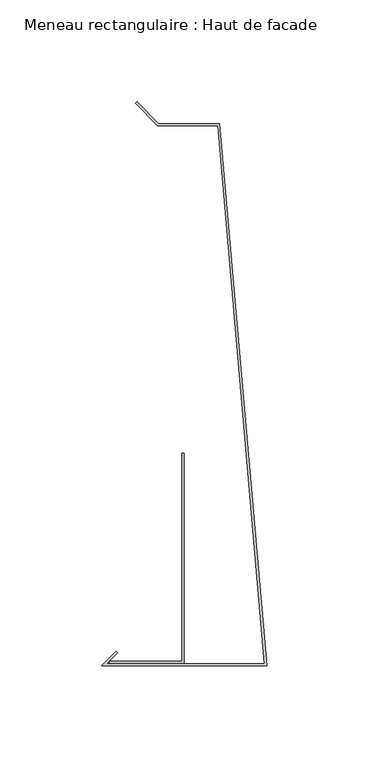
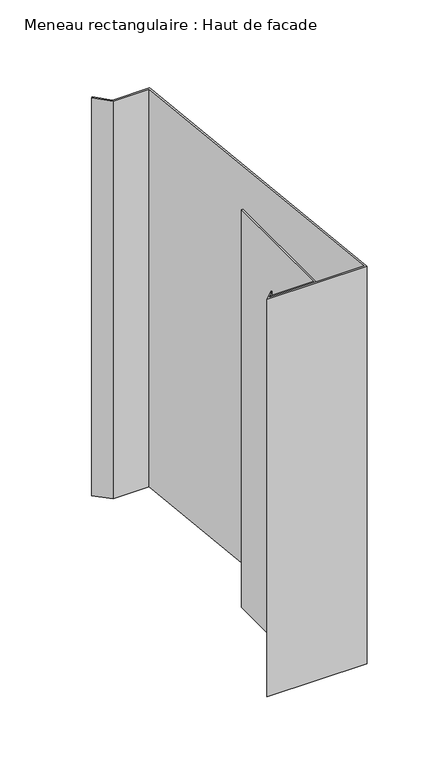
"""IFC4 building model written with IfcOpenShell, lengths in millimetres: member geometry, Meneau rectangulaire : Haut de facade."""

import ifcopenshell
import ifcopenshell.guid

model = None  # the IFC model being written
_history = None  # IfcOwnerHistory: only IFC2X3 demands one
_inside = {}  # id of a spatial element -> (the spatial element, [elements in it])
_under = {}  # id of a project, library or spatial element -> (it, [spatial elements below it])
_declared = {}  # id of a project -> (the project, [libraries it declares])
_typed = {}  # id of a type object -> (the type object, [elements of that type])
_made_of = {}  # id of a material, layer set ... -> (it, [elements and type objects made of it])


def new_model(schema):
    """Start an empty IFC model of exactly this schema.

    Asked for "IFC4X3", IfcOpenShell would pick the latest addendum, in which some entities
    have other attributes; the version numbers below select the first issue.
    IFC2X3 requires an IfcOwnerHistory on every rooted entity: one is made here for all.
    """
    global model, _history
    if schema == "IFC4X3":
        model = ifcopenshell.file(schema_version=(4, 3, 0, 0))
    else:
        model = ifcopenshell.file(schema=schema)
    _inside.clear()
    _under.clear()
    _declared.clear()
    _typed.clear()
    _made_of.clear()
    _history = None
    if model.schema == "IFC2X3":
        org = make("IfcOrganization", Name="unknown")
        user = make(
            "IfcPersonAndOrganization",
            ThePerson=make("IfcPerson", FamilyName="unknown"),
            TheOrganization=org,
        )
        app = make(
            "IfcApplication",
            ApplicationDeveloper=org,
            Version="unknown",
            ApplicationFullName="unknown",
            ApplicationIdentifier="unknown",
        )
        _history = make(
            "IfcOwnerHistory",
            OwningUser=user,
            OwningApplication=app,
            ChangeAction="ADDED",
            CreationDate=0,
        )
    return model


def make(cls, **values):
    """One entity of the class cls with the attributes given. An attribute that is None is left unset."""
    return model.create_entity(
        cls, **{name: value for name, value in values.items() if value is not None}
    )


def rooted(cls, **values):
    """An entity with a GlobalId (a new one), such as an element, a storey or a relation."""
    return make(cls, GlobalId=ifcopenshell.guid.new(), OwnerHistory=_history, **values)


def si_unit(unit_type, name, prefix=None):
    """IfcSIUnit, for example si_unit("LENGTHUNIT", "METRE", prefix="MILLI")."""
    return make("IfcSIUnit", UnitType=unit_type, Prefix=prefix, Name=name)


def assignment(units):
    """IfcUnitAssignment: the units of a project."""
    return None if units is None else make("IfcUnitAssignment", Units=units)


def point(xyz):
    """IfcCartesianPoint."""
    return None if xyz is None else make("IfcCartesianPoint", Coordinates=xyz)


def direction(xyz):
    """IfcDirection."""
    return None if xyz is None else make("IfcDirection", DirectionRatios=xyz)


def frame(location, z_axis=None, x_axis=None):
    """IfcAxis2Placement3D, a coordinate frame: its origin and axes. An axis left out is left unset."""
    return make(
        "IfcAxis2Placement3D",
        Location=point(location),
        Axis=direction(z_axis),
        RefDirection=direction(x_axis),
    )


def origin():
    """The frame at (0, 0, 0) with its axes left unset."""
    return frame((0.0, 0.0, 0.0))


def place(relative_to, where):
    """IfcLocalPlacement: puts the frame where relative to a parent placement (None: the world)."""
    return make(
        "IfcLocalPlacement", PlacementRelTo=relative_to, RelativePlacement=where
    )


def context(
    kind, dimensions, precision=None, world=None, true_north=None, identifier=None
):
    """IfcGeometricRepresentationContext, for example the 3D "Model" context."""
    return make(
        "IfcGeometricRepresentationContext",
        ContextIdentifier=identifier,
        ContextType=kind,
        CoordinateSpaceDimension=dimensions,
        Precision=precision,
        WorldCoordinateSystem=world,
        TrueNorth=true_north,
    )


def project(units=None, contexts=None):
    """IfcProject with its units and contexts."""
    return rooted(
        "IfcProject",
        Name="project",
        RepresentationContexts=contexts,
        UnitsInContext=assignment(units),
    )


def spatial(cls, under=None, at=None, **own):
    """A site, building, storey or space (cls), placed at a placement, below another one or the project."""
    s = rooted(cls, ObjectPlacement=at, **own)
    if under is not None:
        _under.setdefault(under.id(), (under, []))[1].append(s)
    return s


def polyline(points):
    """IfcPolyline through the points."""
    return make("IfcPolyline", Points=[point(p) for p in points])


def outline(outer, holes=None, kind="AREA"):
    """IfcArbitraryClosedProfileDef: a profile drawn as a closed curve; with holes, ...WithVoids."""
    if holes is None:
        return make("IfcArbitraryClosedProfileDef", ProfileType=kind, OuterCurve=outer)
    return make(
        "IfcArbitraryProfileDefWithVoids",
        ProfileType=kind,
        OuterCurve=outer,
        InnerCurves=holes,
    )


def extrude(swept, where, along, depth):
    """IfcExtrudedAreaSolid: the profile swept, set in the frame where, extruded along a direction by depth."""
    return make(
        "IfcExtrudedAreaSolid",
        SweptArea=swept,
        Position=where,
        ExtrudedDirection=direction(along),
        Depth=depth,
    )


def shape(context_of_items, identifier, shape_type, items):
    """IfcShapeRepresentation: the items that make up one representation, for example the "Body"."""
    return make(
        "IfcShapeRepresentation",
        ContextOfItems=context_of_items,
        RepresentationIdentifier=identifier,
        RepresentationType=shape_type,
        Items=items,
    )


def source(mapping_origin, context_of_items, identifier, shape_type, items):
    """IfcRepresentationMap: a shape defined once, which mapped items show again and again."""
    return make(
        "IfcRepresentationMap",
        MappingOrigin=mapping_origin,
        MappedRepresentation=shape(context_of_items, identifier, shape_type, items),
    )


def transform(
    local_origin,
    x_axis=None,
    y_axis=None,
    z_axis=None,
    scale=None,
    scale2=None,
    scale3=None,
    uniform=True,
):
    """IfcCartesianTransformationOperator3D, or its non-uniform kind. x_axis, y_axis, z_axis: its Axis1, 2, 3."""
    if uniform:
        return make(
            "IfcCartesianTransformationOperator3D",
            Axis1=direction(x_axis),
            Axis2=direction(y_axis),
            LocalOrigin=point(local_origin),
            Scale=scale,
            Axis3=direction(z_axis),
        )
    return make(
        "IfcCartesianTransformationOperator3DnonUniform",
        Axis1=direction(x_axis),
        Axis2=direction(y_axis),
        LocalOrigin=point(local_origin),
        Scale=scale,
        Axis3=direction(z_axis),
        Scale2=scale2,
        Scale3=scale3,
    )


def mapped(mapping_source, mapping_target):
    """IfcMappedItem: shows the shape of a source again, moved by a transform."""
    return make(
        "IfcMappedItem", MappingSource=mapping_source, MappingTarget=mapping_target
    )


def made_of(thing, what):
    """Note that an element or type object is made of a material, layer set ...; save() writes the relation."""
    if what is not None:
        _made_of.setdefault(what.id(), (what, []))[1].append(thing)
    return thing


def element(
    cls,
    number,
    at=None,
    inside=None,
    cuts=None,
    type_object=None,
    material=None,
    context=None,
    identifier="Body",
    shape_type=None,
    held_by="IfcProductDefinitionShape",
    body=None,
    shapes=None,
    **own,
):
    """One element of the class cls, such as IfcWall. Its Tag is "e" and its number.

    at: its placement. inside: the storey or other place that contains it. cuts: it is an
    opening in that element (IfcRelVoidsElement). A single representation is given by context,
    identifier, shape_type and body (its items); several are given by shapes. held_by: the class
    of the entity that holds the representations. save() writes the other relations.
    """
    e = rooted(cls, Tag="e%d" % number, ObjectPlacement=at, **own)
    if body is not None:
        shapes = [shape(context, identifier, shape_type, body)]
    if shapes is not None:
        e.Representation = make(held_by, Representations=shapes)
    if inside is not None:
        _inside.setdefault(inside.id(), (inside, []))[1].append(e)
    if cuts is not None:
        rooted(
            "IfcRelVoidsElement", RelatingBuildingElement=cuts, RelatedOpeningElement=e
        )
    if type_object is not None:
        _typed.setdefault(type_object.id(), (type_object, []))[1].append(e)
    return made_of(e, material)


def aggregate(whole, parts):
    """IfcRelAggregates: a whole, such as a stair, and the parts it consists of."""
    return rooted("IfcRelAggregates", RelatingObject=whole, RelatedObjects=parts)


def save(model, path):
    """Write the relations noted so far, then the file.

    IfcRelAggregates (storeys below a building ...), IfcRelContainedInSpatialStructure (elements
    in a storey), IfcRelDefinesByType, IfcRelAssociatesMaterial and IfcRelDeclares: one each for
    every whole, place, type object, material and project.
    """
    for whole, parts in _under.values():
        aggregate(whole, parts)
    for where, things in _inside.values():
        rooted(
            "IfcRelContainedInSpatialStructure",
            RelatedElements=things,
            RelatingStructure=where,
        )
    for kind, things in _typed.values():
        rooted("IfcRelDefinesByType", RelatedObjects=things, RelatingType=kind)
    for what, things in _made_of.values():
        rooted("IfcRelAssociatesMaterial", RelatedObjects=things, RelatingMaterial=what)
    for by, libraries in _declared.values():
        rooted("IfcRelDeclares", RelatingContext=by, RelatedDefinitions=libraries)
    model.write(path)


def meneau_rectangulaire_haut_de_facade_942a833c(model_context):
    return source(origin(), model_context, "Body", "SweptSolid", [
        extrude(outline(polyline([(-24.0647895, 160.703755), (-53.5626719, 160.703755), (-64.4621669, 171.6032499), (-63.7550601, 172.3103567), (-53.1484584, 161.703755), (-23.1484584, 161.703755), (0.0, -104.2), (-81.0, -104.2), (-73.9289322, -97.1289322), (-73.2218254, -97.836039), (-78.5857864, -103.2), (-1.0913085, -103.2), (-24.0647895, 160.703755)])), frame((0.0, 0.0, -342.0), z_axis=(0.0, 0.0, 1.0), x_axis=(1.0, 0.0, 0.0)), (0.0, 0.0, 1.0), 342.0),
        extrude(outline(polyline([(-40.5477541, -102.9846816), (-77.0752814, -102.9846816), (-77.0752814, -101.9846816), (-41.5477541, -101.9846816), (-41.5477541, -0.0384227), (-40.5477541, -0.0384227), (-40.5477541, -102.9846816)])), frame((0.0, 0.0, -342.0), z_axis=(0.0, 0.0, 1.0), x_axis=(1.0, 0.0, 0.0)), (0.0, 0.0, 1.0), 342.0),
    ])


if __name__ == "__main__":
    model = new_model("IFC4")
    model_context = context("Model", 3, world=origin())
    ifc_project = project(units=[si_unit("LENGTHUNIT", "METRE", prefix="MILLI")], contexts=[model_context])
    site = spatial("IfcSite", under=ifc_project)
    building = spatial("IfcBuilding", under=site)
    placement = place(None, origin())
    meneau_rectangulaire_haut_de_facade_shape = meneau_rectangulaire_haut_de_facade_942a833c(model_context)
    element("IfcMember", 1, ObjectType="Meneau rectangulaire : Haut de facade", at=placement, inside=building, context=model_context, shape_type="MappedRepresentation", body=[
        mapped(meneau_rectangulaire_haut_de_facade_shape, transform((0.0, 0.0, 0.0), x_axis=(1.0, 0.0, 0.0), y_axis=(0.0, 1.0, 0.0), z_axis=(0.0, 0.0, 1.0))),
    ])
    save(model, "model.ifc")
